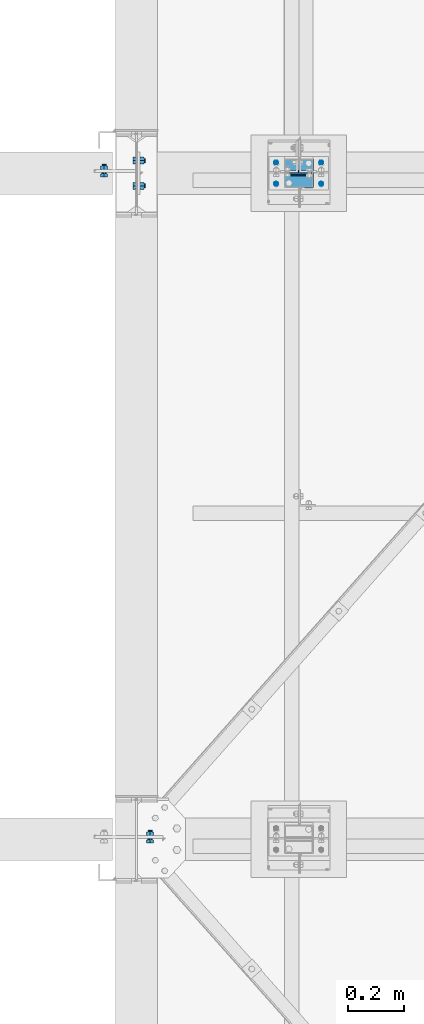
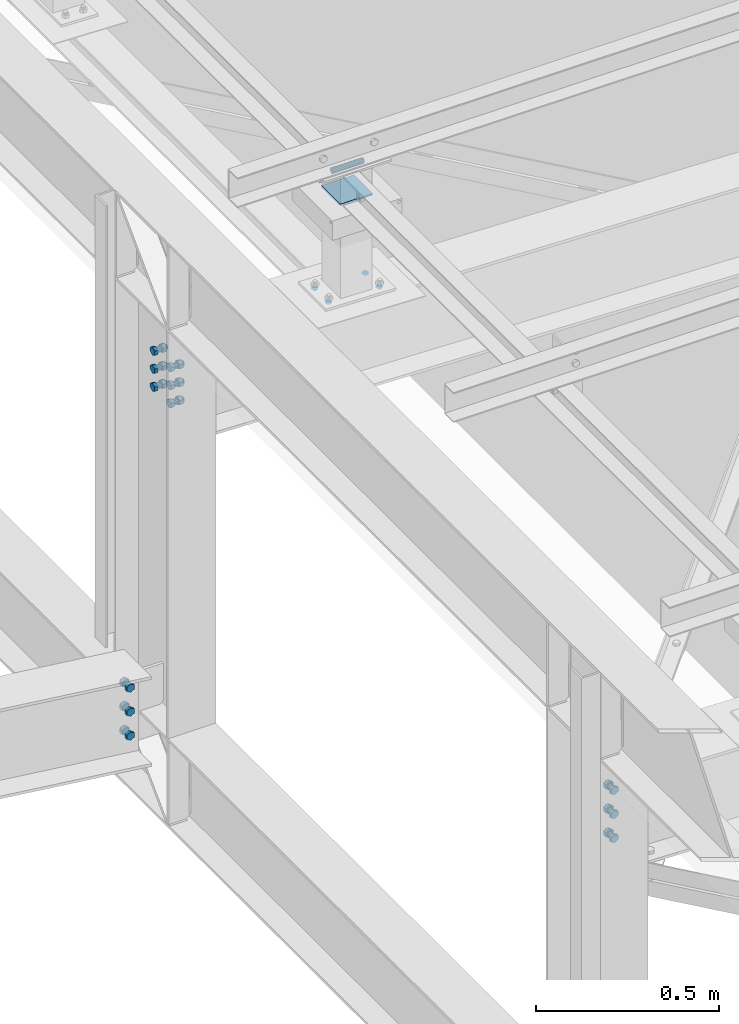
# One storey, part 353 of 3134: 6 mechanical fasteners, 4 elements without a shape of their own.
"""IFC2X3 building model written with IfcOpenShell, lengths in millimetres."""

from ifc_helpers import new_model, si_unit, frame, origin_with_axes, place, context, subcontext, project, spatial, faceted_brep, source, transform, mapped, material, type_object, element, aggregate, save


model = new_model("IFC2X3")

# Units and contexts
model_context = context("Model", 3, precision=1e-05, world=origin_with_axes())
body_context = subcontext(model_context, "Body", "Model", "MODEL_VIEW")
ifc_project = project(units=[si_unit("LENGTHUNIT", "METRE", prefix="MILLI"), si_unit("AREAUNIT", "SQUARE_METRE"), si_unit("VOLUMEUNIT", "CUBIC_METRE"), si_unit("MASSUNIT", "GRAM", prefix="KILO"), si_unit("TIMEUNIT", "SECOND"), si_unit("PLANEANGLEUNIT", "RADIAN"), si_unit("SOLIDANGLEUNIT", "STERADIAN"), si_unit("THERMODYNAMICTEMPERATUREUNIT", "DEGREE_CELSIUS"), si_unit("LUMINOUSINTENSITYUNIT", "LUMEN")], contexts=[model_context])

# Site, building, storey
site_placement = place(None, origin_with_axes())
site = spatial("IfcSite", under=ifc_project, at=site_placement, CompositionType="ELEMENT")
building_placement = place(site_placement, origin_with_axes())
building = spatial("IfcBuilding", under=site, at=building_placement, Name="Undefined", CompositionType="ELEMENT")
storey_placement = place(building_placement, origin_with_axes())
storey = spatial("IfcBuildingStorey", under=building, at=storey_placement, Name="Undefined", CompositionType="ELEMENT", Elevation=0.0)

# Assembly, mechanical fastener
assembly_1_placement = place(storey_placement, origin_with_axes())
assembly_1 = element("IfcElementAssembly", 1, at=assembly_1_placement, inside=storey, Name="300", AssemblyPlace="NOTDEFINED", PredefinedType="RIGID_FRAME")
ifc_material_1 = material(Name="8.8")
mechanical_fastener_type = type_object("IfcMechanicalFastenerType", Name="Bolt assembly")
shared_shape_1 = source(origin_with_axes(), body_context, "Body", "Brep", [
    faceted_brep([(13.856406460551, -13.0499999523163, 0.0), (6.92820323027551, -13.0499999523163, 12.0), (-6.92820323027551, -13.0499999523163, 12.0), (-13.856406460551, -13.0499999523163, 1.69692038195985e-15), (-6.92820323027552, -13.0499999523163, -12.0), (6.9282032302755, -13.0499999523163, -12.0), (6.9282032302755, -3.04999995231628, -12.0), (-6.92820323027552, -3.04999995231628, -12.0), (-13.856406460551, -3.04999995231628, 1.69692038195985e-15), (-6.92820323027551, -3.04999995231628, 12.0), (6.92820323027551, -3.04999995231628, 12.0), (13.856406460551, -3.04999995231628, 0.0), (8.0, -3.04999995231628, 0.0), (6.92820323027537, -3.04999995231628, 4.00000000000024), (3.99999999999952, -3.04999995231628, 6.92820323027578), (-8.29068785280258e-13, -3.04999995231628, 8.0), (-4.00000000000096, -3.04999995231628, 6.92820323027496), (-6.9282032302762, -3.04999995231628, 3.99999999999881), (-8.0, -3.04999995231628, -1.65813757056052e-12), (-6.92820323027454, -3.04999995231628, -4.00000000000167), (-3.99999999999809, -3.04999995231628, -6.92820323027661), (2.47832457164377e-12, -3.04999995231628, -8.0), (4.00000000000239, -3.04999995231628, -6.92820323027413), (6.92820323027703, -3.04999995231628, -3.99999999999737), (6.92820323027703, 31.9500000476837, -3.99999999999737), (4.00000000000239, 31.9500000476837, -6.92820323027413), (2.47832457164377e-12, 31.9500000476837, -8.0), (-3.99999999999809, 31.9500000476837, -6.92820323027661), (-6.92820323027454, 31.9500000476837, -4.00000000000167), (-8.0, 31.9500000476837, -1.65813757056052e-12), (-6.9282032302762, 31.9500000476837, 3.99999999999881), (-4.00000000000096, 31.9500000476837, 6.92820323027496), (-8.29068785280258e-13, 31.9500000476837, 8.0), (3.99999999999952, 31.9500000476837, 6.92820323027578), (6.92820323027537, 31.9500000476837, 4.00000000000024), (8.0, 31.9500000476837, 0.0), (13.856406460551, 13.0500000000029, 0.0), (6.92820323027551, 13.0500000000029, 12.0), (-6.92820323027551, 13.0500000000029, 12.0), (-13.856406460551, 13.0500000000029, 1.69692038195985e-15), (-6.92820323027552, 13.0500000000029, -12.0), (6.9282032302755, 13.0500000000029, -12.0), (6.9282032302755, 26.0500000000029, -12.0), (-6.92820323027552, 26.0500000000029, -12.0), (-13.856406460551, 26.0500000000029, 1.69692038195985e-15), (-6.92820323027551, 26.0500000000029, 12.0), (6.92820323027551, 26.0500000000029, 12.0), (13.856406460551, 26.0500000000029, 0.0)], [[[0, 1, 2, 3, 4, 5]], [[6, 7, 8, 9, 10, 11]], [[0, 11, 10, 1]], [[1, 10, 9, 2]], [[2, 9, 8, 3]], [[3, 8, 7, 4]], [[4, 7, 6, 5]], [[5, 6, 11, 0]], [[12, 13, 14, 15, 16, 17, 18, 19, 20, 21, 22, 23]], [[24, 25, 26, 27, 28, 29, 30, 31, 32, 33, 34, 35]], [[12, 35, 34, 13]], [[13, 34, 33, 14]], [[14, 33, 32, 15]], [[15, 32, 31, 16]], [[16, 31, 30, 17]], [[17, 30, 29, 18]], [[18, 29, 28, 19]], [[19, 28, 27, 20]], [[20, 27, 26, 21]], [[21, 26, 25, 22]], [[22, 25, 24, 23]], [[23, 24, 35, 12]], [[36, 37, 38, 39, 40, 41]], [[42, 43, 44, 45, 46, 47]], [[36, 47, 46, 37]], [[37, 46, 45, 38]], [[38, 45, 44, 39]], [[39, 44, 43, 40]], [[40, 43, 42, 41]], [[41, 42, 47, 36]]]),
    faceted_brep([(9.0, 2.95000000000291, 0.0), (7.79422863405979, 2.95000000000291, 4.50000000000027), (4.49999999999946, 2.95000000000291, 7.79422863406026), (-9.3270238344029e-13, 2.95000000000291, 9.0), (-4.50000000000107, 2.95000000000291, 7.79422863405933), (-7.79422863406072, 2.95000000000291, 4.49999999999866), (-9.0, 2.95000000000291, -1.86540476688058e-12), (-7.79422863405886, 2.95000000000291, -4.50000000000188), (-4.49999999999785, 2.95000000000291, -7.79422863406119), (2.78811514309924e-12, 2.95000000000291, -9.0), (4.50000000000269, 2.95000000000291, -7.7942286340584), (7.79422863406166, 2.95000000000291, -4.49999999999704), (7.79422863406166, 13.0500000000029, -4.49999999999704), (4.50000000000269, 13.0500000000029, -7.7942286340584), (2.78811514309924e-12, 13.0500000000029, -9.0), (-4.49999999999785, 13.0500000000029, -7.79422863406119), (-7.79422863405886, 13.0500000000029, -4.50000000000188), (-9.0, 13.0500000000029, -1.86540476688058e-12), (-7.79422863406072, 13.0500000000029, 4.49999999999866), (-4.50000000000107, 13.0500000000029, 7.79422863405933), (-9.3270238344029e-13, 13.0500000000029, 9.0), (4.49999999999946, 13.0500000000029, 7.79422863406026), (7.79422863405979, 13.0500000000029, 4.50000000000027), (9.0, 13.0500000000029, 0.0), (9.0, -2.94999995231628, 0.0), (7.79422863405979, -2.94999995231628, 4.50000000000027), (4.49999999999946, -2.94999995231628, 7.79422863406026), (-9.3270238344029e-13, -2.94999995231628, 9.0), (-4.50000000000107, -2.94999995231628, 7.79422863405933), (-7.79422863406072, -2.94999995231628, 4.49999999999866), (-9.0, -2.94999995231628, -1.86540476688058e-12), (-7.79422863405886, -2.94999995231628, -4.50000000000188), (-4.49999999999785, -2.94999995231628, -7.79422863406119), (2.78811514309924e-12, -2.94999995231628, -9.0), (4.50000000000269, -2.94999995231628, -7.7942286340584), (7.79422863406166, -2.94999995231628, -4.49999999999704), (7.79422863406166, 3.14999995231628, -4.49999999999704), (4.50000000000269, 3.14999995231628, -7.7942286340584), (2.78811514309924e-12, 3.14999995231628, -9.0), (-4.49999999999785, 3.14999995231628, -7.79422863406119), (-7.79422863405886, 3.14999995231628, -4.50000000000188), (-9.0, 3.14999995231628, -1.86540476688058e-12), (-7.79422863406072, 3.14999995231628, 4.49999999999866), (-4.50000000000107, 3.14999995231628, 7.79422863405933), (-9.3270238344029e-13, 3.14999995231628, 9.0), (4.49999999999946, 3.14999995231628, 7.79422863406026), (7.79422863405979, 3.14999995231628, 4.50000000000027), (9.0, 3.14999995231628, 0.0)], [[[0, 1, 2, 3, 4, 5, 6, 7, 8, 9, 10, 11]], [[12, 13, 14, 15, 16, 17, 18, 19, 20, 21, 22, 23]], [[0, 23, 22, 1]], [[1, 22, 21, 2]], [[2, 21, 20, 3]], [[3, 20, 19, 4]], [[4, 19, 18, 5]], [[5, 18, 17, 6]], [[6, 17, 16, 7]], [[7, 16, 15, 8]], [[8, 15, 14, 9]], [[9, 14, 13, 10]], [[10, 13, 12, 11]], [[11, 12, 23, 0]], [[24, 25, 26, 27, 28, 29, 30, 31, 32, 33, 34, 35]], [[36, 37, 38, 39, 40, 41, 42, 43, 44, 45, 46, 47]], [[24, 47, 46, 25]], [[25, 46, 45, 26]], [[26, 45, 44, 27]], [[27, 44, 43, 28]], [[28, 43, 42, 29]], [[29, 42, 41, 30]], [[30, 41, 40, 31]], [[31, 40, 39, 32]], [[32, 39, 38, 33]], [[33, 38, 37, 34]], [[34, 37, 36, 35]], [[35, 36, 47, 24]]]),
])
mechanical_fastener_1_placement = place(assembly_1_placement, frame((67435.0, 17090.0, 4337.44269270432), z_axis=(1.0, 0.0, 0.0), x_axis=(0.0, 0.0, -1.0)))
mechanical_fastener_1 = element("IfcMechanicalFastener", 2, at=mechanical_fastener_1_placement, type_object=mechanical_fastener_type, material=ifc_material_1, Name="Bolt assembly", NominalDiameter=16.0, NominalLength=35.0, context=body_context, shape_type="MappedRepresentation", body=[
    mapped(shared_shape_1, transform((0.0, 0.0, 0.0))),
    mapped(shared_shape_1, transform((80.0, 0.0, 0.0))),
    mapped(shared_shape_1, transform((160.0, 0.0, 0.0))),
])
aggregate(assembly_1, [mechanical_fastener_1])

assembly_2_placement = place(storey_placement, origin_with_axes())
assembly_2 = element("IfcElementAssembly", 3, at=assembly_2_placement, inside=storey, AssemblyPlace="NOTDEFINED", PredefinedType="RIGID_FRAME")
shared_shape_2 = source(origin_with_axes(), body_context, "Body", "Brep", [
    faceted_brep([(7.0, 13.0000253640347, 0.0), (6.06217782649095, 13.0000253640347, 3.50000000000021), (3.49999999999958, 13.0000253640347, 6.06217782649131), (-7.25435187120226e-13, 13.0000253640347, 7.0), (-3.50000000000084, 13.0000253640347, 6.06217782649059), (-6.06217782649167, 13.0000253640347, 3.49999999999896), (-7.0, 13.0000253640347, -1.45087037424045e-12), (-6.06217782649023, 13.0000253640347, -3.50000000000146), (-3.49999999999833, 13.0000253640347, -6.06217782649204), (2.1685340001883e-12, 13.0000253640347, -7.0), (3.50000000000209, 13.0000253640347, -6.06217782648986), (6.0621778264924, 13.0000253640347, -3.4999999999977), (6.0621778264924, 15.0999999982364, -3.4999999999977), (3.50000000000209, 15.0999999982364, -6.06217782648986), (2.1685340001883e-12, 15.0999999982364, -7.0), (-3.49999999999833, 15.0999999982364, -6.06217782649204), (-6.06217782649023, 15.0999999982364, -3.50000000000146), (-7.0, 15.0999999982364, -1.45087037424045e-12), (-6.06217782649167, 15.0999999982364, 3.49999999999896), (-3.50000000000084, 15.0999999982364, 6.06217782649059), (-7.25435187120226e-13, 15.0999999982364, 7.0), (3.49999999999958, 15.0999999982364, 6.06217782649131), (6.06217782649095, 15.0999999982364, 3.50000000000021), (7.0, 15.0999999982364, 0.0)], [[[0, 1, 2, 3, 4, 5, 6, 7, 8, 9, 10, 11]], [[12, 13, 14, 15, 16, 17, 18, 19, 20, 21, 22, 23]], [[0, 23, 22, 1]], [[1, 22, 21, 2]], [[2, 21, 20, 3]], [[3, 20, 19, 4]], [[4, 19, 18, 5]], [[5, 18, 17, 6]], [[6, 17, 16, 7]], [[7, 16, 15, 8]], [[8, 15, 14, 9]], [[9, 14, 13, 10]], [[10, 13, 12, 11]], [[11, 12, 23, 0]]]),
])
mechanical_fastener_2_placement = place(assembly_2_placement, frame((68124.3451187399, 17128.0, 5409.1772055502), z_axis=(-0.99951962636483, 0.0, 0.0309922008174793), x_axis=(0.0, -1.0, 0.0)))
mechanical_fastener_2 = element("IfcMechanicalFastener", 4, at=mechanical_fastener_2_placement, type_object=mechanical_fastener_type, material=ifc_material_1, Name="Bolt assembly", NominalDiameter=12.0, NominalLength=2.0, context=body_context, shape_type="MappedRepresentation", body=[
    mapped(shared_shape_2, transform((0.0, -5.32963895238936e-10, -79.9999999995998))),
    mapped(shared_shape_2, transform((76.0, -5.32963895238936e-10, -79.9999999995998))),
    mapped(shared_shape_2, transform((0.0, 5.3114490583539e-10, 79.9999999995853))),
    mapped(shared_shape_2, transform((76.0, 5.3114490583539e-10, 79.9999999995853))),
])
aggregate(assembly_2, [mechanical_fastener_2])

# Assembly, mechanical fasteners
assembly_3_placement = place(storey_placement, origin_with_axes())
assembly_3 = element("IfcElementAssembly", 5, at=assembly_3_placement, inside=storey, AssemblyPlace="NOTDEFINED", PredefinedType="RIGID_FRAME")
shared_shape_3 = source(origin_with_axes(), body_context, "Body", "Brep", [
    faceted_brep([(9.0, -50.0, 0.0), (7.79422863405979, -50.0, 4.50000000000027), (4.49999999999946, -50.0, 7.79422863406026), (-9.3270238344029e-13, -50.0, 9.0), (-4.50000000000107, -50.0, 7.79422863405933), (-7.79422863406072, -50.0, 4.49999999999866), (-9.0, -50.0, -1.86540476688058e-12), (-7.79422863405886, -50.0, -4.50000000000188), (-4.49999999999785, -50.0, -7.79422863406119), (2.78811514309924e-12, -50.0, -9.0), (4.50000000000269, -50.0, -7.7942286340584), (7.79422863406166, -50.0, -4.49999999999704), (7.79422863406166, 50.1, -4.49999999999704), (4.50000000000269, 50.1, -7.7942286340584), (2.78811514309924e-12, 50.1, -9.0), (-4.49999999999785, 50.1, -7.79422863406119), (-7.79422863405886, 50.1, -4.50000000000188), (-9.0, 50.1, -1.86540476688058e-12), (-7.79422863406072, 50.1, 4.49999999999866), (-4.50000000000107, 50.1, 7.79422863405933), (-9.3270238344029e-13, 50.1, 9.0), (4.49999999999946, 50.1, 7.79422863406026), (7.79422863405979, 50.1, 4.50000000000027), (9.0, 50.1, 0.0)], [[[0, 1, 2, 3, 4, 5, 6, 7, 8, 9, 10, 11]], [[12, 13, 14, 15, 16, 17, 18, 19, 20, 21, 22, 23]], [[0, 23, 22, 1]], [[1, 22, 21, 2]], [[2, 21, 20, 3]], [[3, 20, 19, 4]], [[4, 19, 18, 5]], [[5, 18, 17, 6]], [[6, 17, 16, 7]], [[7, 16, 15, 8]], [[8, 15, 14, 9]], [[9, 14, 13, 10]], [[10, 13, 12, 11]], [[11, 12, 23, 0]]]),
])
mechanical_fastener_3_placement = place(assembly_3_placement, frame((68125.0, 17090.0, 5830.0), z_axis=(0.0, 1.0, 0.0), x_axis=(0.0, 0.0, 1.0)))
mechanical_fastener_3 = element("IfcMechanicalFastener", 6, at=mechanical_fastener_3_placement, type_object=mechanical_fastener_type, material=ifc_material_1, Name="Bolt assembly", NominalDiameter=16.0, NominalLength=100.0, context=body_context, shape_type="MappedRepresentation", body=[
    mapped(shared_shape_3, transform((0.0, 0.0, 0.0))),
])
ifc_material_2 = material(Name="6.8")
shared_shape_4 = source(origin_with_axes(), body_context, "Body", "Brep", [
    faceted_brep([(51.5, 1.36424205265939e-12, 50.0), (51.3858192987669, 1.36424205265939e-12, 50.5740251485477), (51.0606601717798, 1.36424205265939e-12, 51.0606601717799), (50.5740251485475, 1.36424205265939e-12, 51.385819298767), (-50.0000000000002, 1.36424205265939e-12, 51.5), (-50.7500000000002, 1.36424205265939e-12, 51.2990381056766), (-51.2990381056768, 1.36424205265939e-12, 50.7499999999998), (-51.5, 1.36424205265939e-12, 49.9999999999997), (-51.5, 1.36424205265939e-12, -50.0000000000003), (-51.2990381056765, 1.36424205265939e-12, -50.7500000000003), (-50.7499999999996, 1.36424205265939e-12, -51.2990381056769), (-49.9999999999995, 1.36424205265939e-12, -51.5), (50.0000000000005, 1.36424205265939e-12, -51.5), (50.7500000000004, 1.36424205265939e-12, -51.2990381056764), (51.2990381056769, 1.36424205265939e-12, -50.7499999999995), (51.5, 1.36424205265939e-12, -49.9999999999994), (51.5, 5.10000000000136, -49.9999999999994), (51.2990381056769, 5.10000000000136, -50.7499999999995), (50.7500000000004, 5.10000000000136, -51.2990381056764), (50.0000000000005, 5.10000000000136, -51.5), (-49.9999999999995, 5.10000000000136, -51.5), (-50.7499999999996, 5.10000000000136, -51.2990381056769), (-51.2990381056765, 5.10000000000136, -50.7500000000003), (-51.5, 5.10000000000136, -50.0000000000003), (-51.5, 5.10000000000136, 49.9999999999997), (-51.2990381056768, 5.10000000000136, 50.7499999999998), (-50.7500000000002, 5.10000000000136, 51.2990381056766), (-50.0000000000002, 5.10000000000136, 51.5), (50.5740251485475, 5.10000000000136, 51.385819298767), (51.0606601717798, 5.10000000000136, 51.0606601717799), (51.3858192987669, 5.10000000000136, 50.5740251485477), (51.5, 5.10000000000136, 50.0)], [[[0, 1, 2, 3, 4, 5, 6, 7, 8, 9, 10, 11, 12, 13, 14, 15]], [[16, 17, 18, 19, 20, 21, 22, 23, 24, 25, 26, 27, 28, 29, 30, 31]], [[0, 31, 30, 1]], [[1, 30, 29, 2]], [[2, 29, 28, 3]], [[3, 28, 27, 4]], [[4, 27, 26, 5]], [[5, 26, 25, 6]], [[6, 25, 24, 7]], [[7, 24, 23, 8]], [[8, 23, 22, 9]], [[9, 22, 21, 10]], [[10, 21, 20, 11]], [[11, 20, 19, 12]], [[12, 19, 18, 13]], [[13, 18, 17, 14]], [[14, 17, 16, 15]], [[15, 16, 31, 0]]]),
])
mechanical_fastener_4_placement = place(assembly_3_placement, frame((68125.0, 17090.0, 5750.0), z_axis=(0.0, -1.0, 0.0), x_axis=(-1.0, 0.0, 0.0)))
mechanical_fastener_4 = element("IfcMechanicalFastener", 7, at=mechanical_fastener_4_placement, type_object=mechanical_fastener_type, material=ifc_material_2, Name="Bolt assembly", NominalDiameter=10.0, NominalLength=5.0, context=body_context, shape_type="MappedRepresentation", body=[
    mapped(shared_shape_4, transform((0.0, 0.0, 0.0))),
])
aggregate(assembly_3, [mechanical_fastener_3, mechanical_fastener_4])

assembly_4_placement = place(storey_placement, origin_with_axes())
assembly_4 = element("IfcElementAssembly", 8, at=assembly_4_placement, inside=storey, Name="300", AssemblyPlace="NOTDEFINED", PredefinedType="RIGID_FRAME")
shared_shape_5 = source(origin_with_axes(), body_context, "Body", "Brep", [
    faceted_brep([(13.856406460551, -13.0499999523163, 0.0), (6.92820323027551, -13.0499999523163, 12.0), (-6.92820323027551, -13.0499999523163, 12.0), (-13.856406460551, -13.0499999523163, 1.69692038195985e-15), (-6.92820323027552, -13.0499999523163, -12.0), (6.9282032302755, -13.0499999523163, -12.0), (6.9282032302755, -3.04999995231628, -12.0), (-6.92820323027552, -3.04999995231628, -12.0), (-13.856406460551, -3.04999995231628, 1.69692038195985e-15), (-6.92820323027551, -3.04999995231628, 12.0), (6.92820323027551, -3.04999995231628, 12.0), (13.856406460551, -3.04999995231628, 0.0), (8.0, -3.04999995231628, 0.0), (6.92820323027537, -3.04999995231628, 4.00000000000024), (3.99999999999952, -3.04999995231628, 6.92820323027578), (-8.29068785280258e-13, -3.04999995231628, 8.0), (-4.00000000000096, -3.04999995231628, 6.92820323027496), (-6.9282032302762, -3.04999995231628, 3.99999999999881), (-8.0, -3.04999995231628, -1.65813757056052e-12), (-6.92820323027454, -3.04999995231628, -4.00000000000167), (-3.99999999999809, -3.04999995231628, -6.92820323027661), (2.47832457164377e-12, -3.04999995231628, -8.0), (4.00000000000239, -3.04999995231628, -6.92820323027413), (6.92820323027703, -3.04999995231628, -3.99999999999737), (6.92820323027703, 31.9500000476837, -3.99999999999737), (4.00000000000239, 31.9500000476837, -6.92820323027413), (2.47832457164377e-12, 31.9500000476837, -8.0), (-3.99999999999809, 31.9500000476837, -6.92820323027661), (-6.92820323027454, 31.9500000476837, -4.00000000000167), (-8.0, 31.9500000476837, -1.65813757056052e-12), (-6.9282032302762, 31.9500000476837, 3.99999999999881), (-4.00000000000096, 31.9500000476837, 6.92820323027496), (-8.29068785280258e-13, 31.9500000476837, 8.0), (3.99999999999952, 31.9500000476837, 6.92820323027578), (6.92820323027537, 31.9500000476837, 4.00000000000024), (8.0, 31.9500000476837, 0.0), (13.856406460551, 13.0500000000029, 0.0), (6.92820323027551, 13.0500000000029, 12.0), (-6.92820323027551, 13.0500000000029, 12.0), (-13.856406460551, 13.0500000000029, 1.69692038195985e-15), (-6.92820323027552, 13.0500000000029, -12.0), (6.9282032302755, 13.0500000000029, -12.0), (6.9282032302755, 26.0500000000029, -12.0), (-6.92820323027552, 26.0500000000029, -12.0), (-13.856406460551, 26.0500000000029, 1.69692038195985e-15), (-6.92820323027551, 26.0500000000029, 12.0), (6.92820323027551, 26.0500000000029, 12.0), (13.856406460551, 26.0500000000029, 0.0)], [[[0, 1, 2, 3, 4, 5]], [[6, 7, 8, 9, 10, 11]], [[0, 11, 10, 1]], [[1, 10, 9, 2]], [[2, 9, 8, 3]], [[3, 8, 7, 4]], [[4, 7, 6, 5]], [[5, 6, 11, 0]], [[12, 13, 14, 15, 16, 17, 18, 19, 20, 21, 22, 23]], [[24, 25, 26, 27, 28, 29, 30, 31, 32, 33, 34, 35]], [[12, 35, 34, 13]], [[13, 34, 33, 14]], [[14, 33, 32, 15]], [[15, 32, 31, 16]], [[16, 31, 30, 17]], [[17, 30, 29, 18]], [[18, 29, 28, 19]], [[19, 28, 27, 20]], [[20, 27, 26, 21]], [[21, 26, 25, 22]], [[22, 25, 24, 23]], [[23, 24, 35, 12]], [[36, 37, 38, 39, 40, 41]], [[42, 43, 44, 45, 46, 47]], [[36, 47, 46, 37]], [[37, 46, 45, 38]], [[38, 45, 44, 39]], [[39, 44, 43, 40]], [[40, 43, 42, 41]], [[41, 42, 47, 36]]]),
    faceted_brep([(9.0, -2.94999995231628, 0.0), (7.79422863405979, -2.94999995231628, 4.50000000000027), (4.49999999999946, -2.94999995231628, 7.79422863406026), (-9.3270238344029e-13, -2.94999995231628, 9.0), (-4.50000000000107, -2.94999995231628, 7.79422863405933), (-7.79422863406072, -2.94999995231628, 4.49999999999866), (-9.0, -2.94999995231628, -1.86540476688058e-12), (-7.79422863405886, -2.94999995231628, -4.50000000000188), (-4.49999999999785, -2.94999995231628, -7.79422863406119), (2.78811514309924e-12, -2.94999995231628, -9.0), (4.50000000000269, -2.94999995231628, -7.7942286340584), (7.79422863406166, -2.94999995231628, -4.49999999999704), (7.79422863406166, 3.14999995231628, -4.49999999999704), (4.50000000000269, 3.14999995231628, -7.7942286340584), (2.78811514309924e-12, 3.14999995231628, -9.0), (-4.49999999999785, 3.14999995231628, -7.79422863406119), (-7.79422863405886, 3.14999995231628, -4.50000000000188), (-9.0, 3.14999995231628, -1.86540476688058e-12), (-7.79422863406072, 3.14999995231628, 4.49999999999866), (-4.50000000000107, 3.14999995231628, 7.79422863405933), (-9.3270238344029e-13, 3.14999995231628, 9.0), (4.49999999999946, 3.14999995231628, 7.79422863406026), (7.79422863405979, 3.14999995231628, 4.50000000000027), (9.0, 3.14999995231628, 0.0), (9.0, 2.95000000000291, 0.0), (7.79422863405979, 2.95000000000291, 4.50000000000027), (4.49999999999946, 2.95000000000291, 7.79422863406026), (-9.3270238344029e-13, 2.95000000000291, 9.0), (-4.50000000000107, 2.95000000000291, 7.79422863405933), (-7.79422863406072, 2.95000000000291, 4.49999999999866), (-9.0, 2.95000000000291, -1.86540476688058e-12), (-7.79422863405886, 2.95000000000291, -4.50000000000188), (-4.49999999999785, 2.95000000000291, -7.79422863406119), (2.78811514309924e-12, 2.95000000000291, -9.0), (4.50000000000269, 2.95000000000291, -7.7942286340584), (7.79422863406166, 2.95000000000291, -4.49999999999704), (7.79422863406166, 13.0500000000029, -4.49999999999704), (4.50000000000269, 13.0500000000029, -7.7942286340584), (2.78811514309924e-12, 13.0500000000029, -9.0), (-4.49999999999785, 13.0500000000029, -7.79422863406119), (-7.79422863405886, 13.0500000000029, -4.50000000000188), (-9.0, 13.0500000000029, -1.86540476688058e-12), (-7.79422863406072, 13.0500000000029, 4.49999999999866), (-4.50000000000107, 13.0500000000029, 7.79422863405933), (-9.3270238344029e-13, 13.0500000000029, 9.0), (4.49999999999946, 13.0500000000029, 7.79422863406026), (7.79422863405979, 13.0500000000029, 4.50000000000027), (9.0, 13.0500000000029, 0.0)], [[[0, 1, 2, 3, 4, 5, 6, 7, 8, 9, 10, 11]], [[12, 13, 14, 15, 16, 17, 18, 19, 20, 21, 22, 23]], [[0, 23, 22, 1]], [[1, 22, 21, 2]], [[2, 21, 20, 3]], [[3, 20, 19, 4]], [[4, 19, 18, 5]], [[5, 18, 17, 6]], [[6, 17, 16, 7]], [[7, 16, 15, 8]], [[8, 15, 14, 9]], [[9, 14, 13, 10]], [[10, 13, 12, 11]], [[11, 12, 23, 0]], [[24, 25, 26, 27, 28, 29, 30, 31, 32, 33, 34, 35]], [[36, 37, 38, 39, 40, 41, 42, 43, 44, 45, 46, 47]], [[24, 47, 46, 25]], [[25, 46, 45, 26]], [[26, 45, 44, 27]], [[27, 44, 43, 28]], [[28, 43, 42, 29]], [[29, 42, 41, 30]], [[30, 41, 40, 31]], [[31, 40, 39, 32]], [[32, 39, 38, 33]], [[33, 38, 37, 34]], [[34, 37, 36, 35]], [[35, 36, 47, 24]]]),
])
mechanical_fastener_5_placement = place(assembly_4_placement, frame((67598.048135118, 14730.0, 5369.94123688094), z_axis=(1.0, 0.0, 0.0), x_axis=(0.0, 0.0, -1.0)))
mechanical_fastener_5 = element("IfcMechanicalFastener", 9, at=mechanical_fastener_5_placement, type_object=mechanical_fastener_type, material=ifc_material_1, Name="Bolt assembly", NominalDiameter=16.0, NominalLength=35.0, context=body_context, shape_type="MappedRepresentation", body=[
    mapped(shared_shape_5, transform((0.0, 0.0, 0.0))),
    mapped(shared_shape_5, transform((80.0, 0.0, 0.0))),
    mapped(shared_shape_5, transform((160.0, 0.0, 0.0))),
])
shared_shape_6 = source(origin_with_axes(), body_context, "Body", "Brep", [
    faceted_brep([(13.856406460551, -26.1000002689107, 0.0), (6.92820323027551, -26.1000002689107, 12.0), (-6.92820323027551, -26.1000002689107, 12.0), (-13.856406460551, -26.1000002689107, 1.69692038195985e-15), (-6.92820323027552, -26.1000002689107, -12.0), (6.9282032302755, -26.1000002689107, -12.0), (6.9282032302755, -16.0999999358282, -12.0), (-6.92820323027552, -16.0999999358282, -12.0), (-13.856406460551, -16.0999999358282, 1.69692038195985e-15), (-6.92820323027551, -16.0999999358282, 12.0), (6.92820323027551, -16.0999999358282, 12.0), (13.856406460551, -16.0999999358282, 0.0), (8.0, -16.1000002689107, 0.0), (6.92820323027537, -16.1000002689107, 4.00000000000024), (3.99999999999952, -16.1000002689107, 6.92820323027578), (-8.29068785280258e-13, -16.1000002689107, 8.0), (-4.00000000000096, -16.1000002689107, 6.92820323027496), (-6.9282032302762, -16.1000002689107, 3.99999999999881), (-8.0, -16.1000002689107, -1.65813757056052e-12), (-6.92820323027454, -16.1000002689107, -4.00000000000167), (-3.99999999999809, -16.1000002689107, -6.92820323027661), (2.47832457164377e-12, -16.1000002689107, -8.0), (4.00000000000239, -16.1000002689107, -6.92820323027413), (6.92820323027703, -16.1000002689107, -3.99999999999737), (6.92820323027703, 18.8999997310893, -3.99999999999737), (4.00000000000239, 18.8999997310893, -6.92820323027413), (2.47832457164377e-12, 18.8999997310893, -8.0), (-3.99999999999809, 18.8999997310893, -6.92820323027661), (-6.92820323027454, 18.8999997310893, -4.00000000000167), (-8.0, 18.8999997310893, -1.65813757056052e-12), (-6.9282032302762, 18.8999997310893, 3.99999999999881), (-4.00000000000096, 18.8999997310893, 6.92820323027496), (-8.29068785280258e-13, 18.8999997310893, 8.0), (3.99999999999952, 18.8999997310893, 6.92820323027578), (6.92820323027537, 18.8999997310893, 4.00000000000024), (8.0, 18.8999997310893, 0.0), (13.856406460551, 0.0, 0.0), (6.92820323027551, 0.0, 12.0), (-6.92820323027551, 0.0, 12.0), (-13.856406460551, 0.0, 1.69692038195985e-15), (-6.92820323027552, 0.0, -12.0), (6.9282032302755, 0.0, -12.0), (6.9282032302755, 12.9999996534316, -12.0), (-6.92820323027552, 12.9999996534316, -12.0), (-13.856406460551, 12.9999996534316, 1.69692038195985e-15), (-6.92820323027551, 12.9999996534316, 12.0), (6.92820323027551, 12.9999996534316, 12.0), (13.856406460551, 12.9999996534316, 0.0)], [[[0, 1, 2, 3, 4, 5]], [[6, 7, 8, 9, 10, 11]], [[0, 11, 10, 1]], [[1, 10, 9, 2]], [[2, 9, 8, 3]], [[3, 8, 7, 4]], [[4, 7, 6, 5]], [[5, 6, 11, 0]], [[12, 13, 14, 15, 16, 17, 18, 19, 20, 21, 22, 23]], [[24, 25, 26, 27, 28, 29, 30, 31, 32, 33, 34, 35]], [[12, 35, 34, 13]], [[13, 34, 33, 14]], [[14, 33, 32, 15]], [[15, 32, 31, 16]], [[16, 31, 30, 17]], [[17, 30, 29, 18]], [[18, 29, 28, 19]], [[19, 28, 27, 20]], [[20, 27, 26, 21]], [[21, 26, 25, 22]], [[22, 25, 24, 23]], [[23, 24, 35, 12]], [[36, 37, 38, 39, 40, 41]], [[42, 43, 44, 45, 46, 47]], [[36, 47, 46, 37]], [[37, 46, 45, 38]], [[38, 45, 44, 39]], [[39, 44, 43, 40]], [[40, 43, 42, 41]], [[41, 42, 47, 36]]]),
    faceted_brep([(9.0, -10.1000003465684, 0.0), (7.79422863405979, -10.1000003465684, 4.50000000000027), (4.49999999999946, -10.1000003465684, 7.79422863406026), (-9.3270238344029e-13, -10.1000003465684, 9.0), (-4.50000000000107, -10.1000003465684, 7.79422863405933), (-7.79422863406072, -10.1000003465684, 4.49999999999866), (-9.0, -10.1000003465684, -1.86540476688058e-12), (-7.79422863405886, -10.1000003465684, -4.50000000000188), (-4.49999999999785, -10.1000003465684, -7.79422863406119), (2.78811514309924e-12, -10.1000003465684, -9.0), (4.50000000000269, -10.1000003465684, -7.7942286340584), (7.79422863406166, -10.1000003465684, -4.49999999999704), (7.79422863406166, -3.46568413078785e-07, -4.49999999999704), (4.50000000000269, -3.46568413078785e-07, -7.7942286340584), (2.78811514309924e-12, -3.46568413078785e-07, -9.0), (-4.49999999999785, -3.46568413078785e-07, -7.79422863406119), (-7.79422863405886, -3.46568413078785e-07, -4.50000000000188), (-9.0, -3.46568413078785e-07, -1.86540476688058e-12), (-7.79422863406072, -3.46568413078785e-07, 4.49999999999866), (-4.50000000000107, -3.46568413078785e-07, 7.79422863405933), (-9.3270238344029e-13, -3.46568413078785e-07, 9.0), (4.49999999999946, -3.46568413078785e-07, 7.79422863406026), (7.79422863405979, -3.46568413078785e-07, 4.50000000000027), (9.0, -3.46568413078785e-07, 0.0), (9.0, -16.0000002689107, 0.0), (7.79422863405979, -16.0000002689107, 4.50000000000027), (4.49999999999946, -16.0000002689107, 7.79422863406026), (-9.3270238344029e-13, -16.0000002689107, 9.0), (-4.50000000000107, -16.0000002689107, 7.79422863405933), (-7.79422863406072, -16.0000002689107, 4.49999999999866), (-9.0, -16.0000002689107, -1.86540476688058e-12), (-7.79422863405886, -16.0000002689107, -4.50000000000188), (-4.49999999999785, -16.0000002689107, -7.79422863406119), (2.78811514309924e-12, -16.0000002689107, -9.0), (4.50000000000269, -16.0000002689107, -7.7942286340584), (7.79422863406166, -16.0000002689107, -4.49999999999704), (7.79422863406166, -9.89999997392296, -4.49999999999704), (4.50000000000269, -9.89999997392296, -7.7942286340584), (2.78811514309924e-12, -9.89999997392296, -9.0), (-4.49999999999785, -9.89999997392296, -7.79422863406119), (-7.79422863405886, -9.89999997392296, -4.50000000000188), (-9.0, -9.89999997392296, -1.86540476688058e-12), (-7.79422863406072, -9.89999997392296, 4.49999999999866), (-4.50000000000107, -9.89999997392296, 7.79422863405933), (-9.3270238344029e-13, -9.89999997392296, 9.0), (4.49999999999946, -9.89999997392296, 7.79422863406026), (7.79422863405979, -9.89999997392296, 4.50000000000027), (9.0, -9.89999997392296, 0.0)], [[[0, 1, 2, 3, 4, 5, 6, 7, 8, 9, 10, 11]], [[12, 13, 14, 15, 16, 17, 18, 19, 20, 21, 22, 23]], [[0, 23, 22, 1]], [[1, 22, 21, 2]], [[2, 21, 20, 3]], [[3, 20, 19, 4]], [[4, 19, 18, 5]], [[5, 18, 17, 6]], [[6, 17, 16, 7]], [[7, 16, 15, 8]], [[8, 15, 14, 9]], [[9, 14, 13, 10]], [[10, 13, 12, 11]], [[11, 12, 23, 0]], [[24, 25, 26, 27, 28, 29, 30, 31, 32, 33, 34, 35]], [[36, 37, 38, 39, 40, 41, 42, 43, 44, 45, 46, 47]], [[24, 47, 46, 25]], [[25, 46, 45, 26]], [[26, 45, 44, 27]], [[27, 44, 43, 28]], [[28, 43, 42, 29]], [[29, 42, 41, 30]], [[30, 41, 40, 31]], [[31, 40, 39, 32]], [[32, 39, 38, 33]], [[33, 38, 37, 34]], [[34, 37, 36, 35]], [[35, 36, 47, 24]]]),
])
mechanical_fastener_6_placement = place(assembly_4_placement, frame((67563.0500003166, 17090.0, 5269.59113578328), z_axis=(0.0, 1.0, 0.0), x_axis=(0.0, 0.0, 1.0)))
mechanical_fastener_6 = element("IfcMechanicalFastener", 10, at=mechanical_fastener_6_placement, type_object=mechanical_fastener_type, material=ifc_material_1, Name="Bolt assembly", NominalDiameter=16.0, NominalLength=35.0, context=body_context, shape_type="MappedRepresentation", body=[
    mapped(shared_shape_6, transform((0.0, 0.0, -45.0))),
    mapped(shared_shape_6, transform((60.0, 0.0, -45.0))),
    mapped(shared_shape_6, transform((120.0, 0.0, -45.0))),
    mapped(shared_shape_6, transform((0.0, 0.0, 45.0))),
    mapped(shared_shape_6, transform((60.0, 0.0, 45.0))),
    mapped(shared_shape_6, transform((120.0, 0.0, 45.0))),
])
aggregate(assembly_4, [mechanical_fastener_6, mechanical_fastener_5])

save(model, "model.ifc")
